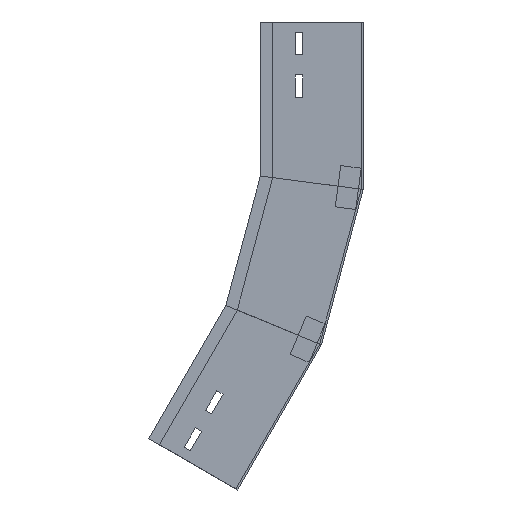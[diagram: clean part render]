
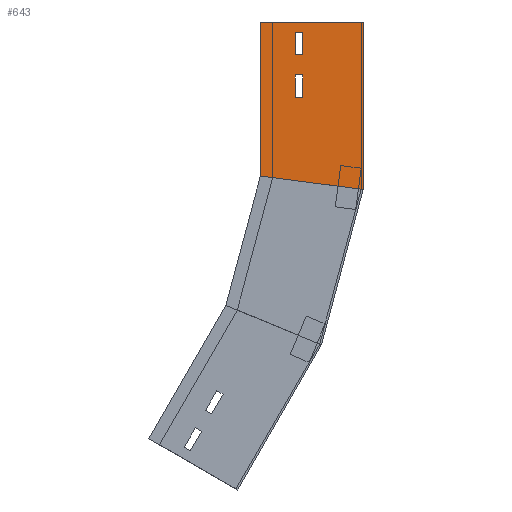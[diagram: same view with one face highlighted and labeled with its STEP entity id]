
A CAD part, left-side view. The second image highlights one B-rep face of the part: STEP entity #643.
In plain terms, the highlighted planar face has unit normal (-1, 0, 0) as drawn and (1, 0, 0) by its records, which use the part's own axes.
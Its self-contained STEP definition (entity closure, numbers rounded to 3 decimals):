
#2 = FACE_BOUND ( 'NONE', #287, .T. ) ;
#9 = CARTESIAN_POINT ( 'NONE',  ( 0., 142.436, -358.769 ) ) ;
#19 = ORIENTED_EDGE ( 'NONE', *, *, #1167, .F. ) ;
#28 = ORIENTED_EDGE ( 'NONE', *, *, #811, .F. ) ;
#44 = DIRECTION ( 'NONE',  ( -1., 0., 0. ) ) ;
#58 = VERTEX_POINT ( 'NONE', #187 ) ;
#90 = DIRECTION ( 'NONE',  ( 0., -0.5, 0.866 ) ) ;
#111 = CARTESIAN_POINT ( 'NONE',  ( 0., 147.374, -381.321 ) ) ;
#121 = VERTEX_POINT ( 'NONE', #939 ) ;
#136 = LINE ( 'NONE', #9, #1082 ) ;
#147 = CARTESIAN_POINT ( 'NONE',  ( 0., 40.531, -314.264 ) ) ;
#175 = EDGE_CURVE ( 'NONE', #568, #256, #975, .T. ) ;
#187 = CARTESIAN_POINT ( 'NONE',  ( 0., 157.209, -398.356 ) ) ;
#199 = DIRECTION ( 'NONE',  ( 0., 0.866, 0.5 ) ) ;
#221 = VECTOR ( 'NONE', #498, 1000. ) ;
#224 = CARTESIAN_POINT ( 'NONE',  ( 0., 59.416, -306.442 ) ) ;
#252 = VECTOR ( 'NONE', #933, 1000. ) ;
#256 = VERTEX_POINT ( 'NONE', #111 ) ;
#258 = ORIENTED_EDGE ( 'NONE', *, *, #989, .T. ) ;
#262 = LINE ( 'NONE', #831, #834 ) ;
#271 = CARTESIAN_POINT ( 'NONE',  ( 0., 163.271, -394.856 ) ) ;
#283 = EDGE_CURVE ( 'NONE', #256, #402, #1451, .T. ) ;
#287 = EDGE_LOOP ( 'NONE', ( #342, #903, #1244, #837 ) ) ;
#293 = EDGE_CURVE ( 'NONE', #402, #121, #899, .T. ) ;
#298 = VECTOR ( 'NONE', #1303, 1000. ) ;
#300 = CARTESIAN_POINT ( 'NONE',  ( 0., 136.374, -362.269 ) ) ;
#307 = VECTOR ( 'NONE', #1412, 1000. ) ;
#309 = EDGE_CURVE ( 'NONE', #620, #489, #1334, .T. ) ;
#342 = ORIENTED_EDGE ( 'NONE', *, *, #293, .F. ) ;
#386 = CARTESIAN_POINT ( 'NONE',  ( 0., 153.436, -377.821 ) ) ;
#391 = VECTOR ( 'NONE', #1368, 1000. ) ;
#400 = VERTEX_POINT ( 'NONE', #749 ) ;
#402 = VERTEX_POINT ( 'NONE', #386 ) ;
#426 = LINE ( 'NONE', #761, #1156 ) ;
#432 = CARTESIAN_POINT ( 'NONE',  ( 0., 174.271, -413.909 ) ) ;
#442 = VERTEX_POINT ( 'NONE', #730 ) ;
#489 = VERTEX_POINT ( 'NONE', #812 ) ;
#495 = CARTESIAN_POINT ( 'NONE',  ( 0., 122.031, -455.426 ) ) ;
#498 = DIRECTION ( 'NONE',  ( 0., 0.5, -0.866 ) ) ;
#554 = DIRECTION ( 'NONE',  ( 0., -0.924, -0.383 ) ) ;
#568 = VERTEX_POINT ( 'NONE', #300 ) ;
#580 = EDGE_CURVE ( 'NONE', #58, #400, #677, .T. ) ;
#601 = VECTOR ( 'NONE', #554, 1000. ) ;
#610 = CARTESIAN_POINT ( 'NONE',  ( 0., 163.271, -394.856 ) ) ;
#613 = EDGE_LOOP ( 'NONE', ( #852, #258, #880, #28 ) ) ;
#614 = CARTESIAN_POINT ( 'NONE',  ( 0., 147.374, -381.321 ) ) ;
#617 = LINE ( 'NONE', #853, #298 ) ;
#620 = VERTEX_POINT ( 'NONE', #904 ) ;
#627 = VERTEX_POINT ( 'NONE', #495 ) ;
#643 = ADVANCED_FACE ( 'NONE', ( #1041, #2, #740 ), #1204, .F. ) ;
#669 = LINE ( 'NONE', #432, #1207 ) ;
#677 = LINE ( 'NONE', #1143, #391 ) ;
#711 = DIRECTION ( 'NONE',  ( 0., 0.866, 0.5 ) ) ;
#725 = CARTESIAN_POINT ( 'NONE',  ( 0., 40.531, -314.264 ) ) ;
#730 = CARTESIAN_POINT ( 'NONE',  ( 0., 208.634, -405.426 ) ) ;
#740 = FACE_OUTER_BOUND ( 'NONE', #613, .T. ) ;
#749 = CARTESIAN_POINT ( 'NONE',  ( 0., 168.209, -417.409 ) ) ;
#761 = CARTESIAN_POINT ( 'NONE',  ( 0., 122.031, -455.426 ) ) ;
#768 = DIRECTION ( 'NONE',  ( 0., 0.866, 0.5 ) ) ;
#806 = ORIENTED_EDGE ( 'NONE', *, *, #580, .F. ) ;
#811 = EDGE_CURVE ( 'NONE', #620, #442, #617, .T. ) ;
#812 = CARTESIAN_POINT ( 'NONE',  ( 0., 40.531, -314.264 ) ) ;
#831 = CARTESIAN_POINT ( 'NONE',  ( 0., 174.271, -413.909 ) ) ;
#834 = VECTOR ( 'NONE', #711, 1000. ) ;
#837 = ORIENTED_EDGE ( 'NONE', *, *, #859, .F. ) ;
#852 = ORIENTED_EDGE ( 'NONE', *, *, #309, .T. ) ;
#853 = CARTESIAN_POINT ( 'NONE',  ( 0., 127.134, -264.264 ) ) ;
#859 = EDGE_CURVE ( 'NONE', #121, #568, #136, .T. ) ;
#867 = EDGE_LOOP ( 'NONE', ( #1078, #995, #806, #19 ) ) ;
#880 = ORIENTED_EDGE ( 'NONE', *, *, #1411, .T. ) ;
#896 = VERTEX_POINT ( 'NONE', #271 ) ;
#898 = EDGE_CURVE ( 'NONE', #400, #965, #262, .T. ) ;
#899 = LINE ( 'NONE', #1241, #1386 ) ;
#903 = ORIENTED_EDGE ( 'NONE', *, *, #283, .F. ) ;
#904 = CARTESIAN_POINT ( 'NONE',  ( 0., 133.716, -275.665 ) ) ;
#922 = EDGE_CURVE ( 'NONE', #965, #896, #669, .T. ) ;
#933 = DIRECTION ( 'NONE',  ( 0., -0.866, -0.5 ) ) ;
#939 = CARTESIAN_POINT ( 'NONE',  ( 0., 142.436, -358.769 ) ) ;
#965 = VERTEX_POINT ( 'NONE', #1189 ) ;
#975 = LINE ( 'NONE', #614, #221 ) ;
#989 = EDGE_CURVE ( 'NONE', #489, #627, #1181, .T. ) ;
#995 = ORIENTED_EDGE ( 'NONE', *, *, #898, .F. ) ;
#1018 = CARTESIAN_POINT ( 'NONE',  ( 0., 153.436, -377.821 ) ) ;
#1037 = LINE ( 'NONE', #610, #252 ) ;
#1041 = FACE_BOUND ( 'NONE', #867, .T. ) ;
#1078 = ORIENTED_EDGE ( 'NONE', *, *, #922, .F. ) ;
#1082 = VECTOR ( 'NONE', #1392, 1000. ) ;
#1095 = AXIS2_PLACEMENT_3D ( 'NONE', #725, #44, #1196 ) ;
#1143 = CARTESIAN_POINT ( 'NONE',  ( 0., 168.209, -417.409 ) ) ;
#1156 = VECTOR ( 'NONE', #199, 1000. ) ;
#1159 = VECTOR ( 'NONE', #768, 1000. ) ;
#1167 = EDGE_CURVE ( 'NONE', #896, #58, #1037, .T. ) ;
#1181 = LINE ( 'NONE', #147, #307 ) ;
#1189 = CARTESIAN_POINT ( 'NONE',  ( 0., 174.271, -413.909 ) ) ;
#1196 = DIRECTION ( 'NONE',  ( 0., 0., 1. ) ) ;
#1204 = PLANE ( 'NONE',  #1095 ) ;
#1207 = VECTOR ( 'NONE', #1265, 1000. ) ;
#1241 = CARTESIAN_POINT ( 'NONE',  ( 0., 153.436, -377.821 ) ) ;
#1244 = ORIENTED_EDGE ( 'NONE', *, *, #175, .F. ) ;
#1265 = DIRECTION ( 'NONE',  ( 0., -0.5, 0.866 ) ) ;
#1303 = DIRECTION ( 'NONE',  ( 0., 0.5, -0.866 ) ) ;
#1334 = LINE ( 'NONE', #224, #601 ) ;
#1368 = DIRECTION ( 'NONE',  ( 0., 0.5, -0.866 ) ) ;
#1386 = VECTOR ( 'NONE', #90, 1000. ) ;
#1392 = DIRECTION ( 'NONE',  ( 0., -0.866, -0.5 ) ) ;
#1411 = EDGE_CURVE ( 'NONE', #627, #442, #426, .T. ) ;
#1412 = DIRECTION ( 'NONE',  ( 0., 0.5, -0.866 ) ) ;
#1451 = LINE ( 'NONE', #1018, #1159 ) ;
